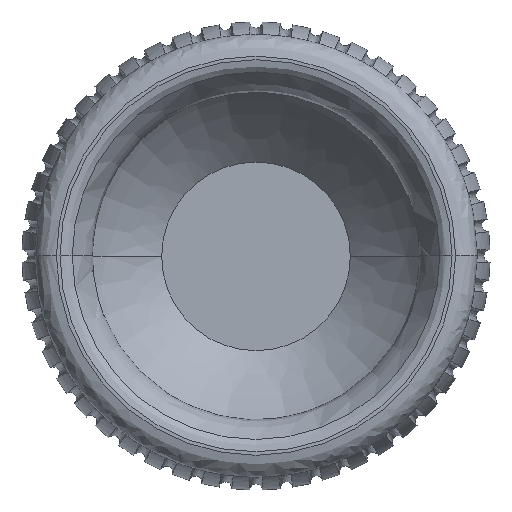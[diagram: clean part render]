
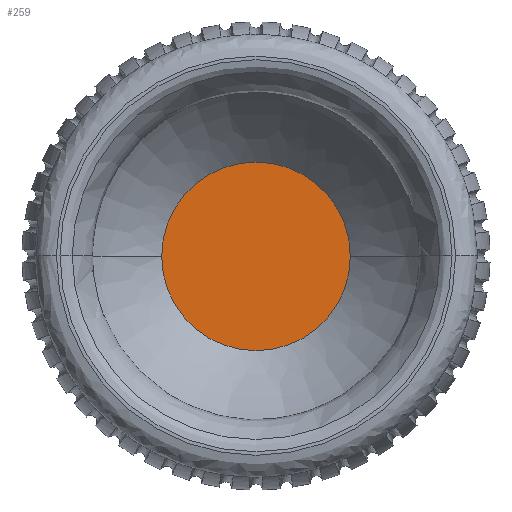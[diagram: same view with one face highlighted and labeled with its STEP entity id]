
A CAD part, top view. The second image highlights one B-rep face of the part: STEP entity #259.
In plain terms, the highlighted planar face has unit normal (0, 0, 1).
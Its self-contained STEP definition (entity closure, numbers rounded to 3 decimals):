
#259=ADVANCED_FACE('',(#464),#3077,.T.);
#464=FACE_OUTER_BOUND('',#693,.T.);
#693=EDGE_LOOP('',(#1494,#1495));
#1494=ORIENTED_EDGE('',*,*,#2082,.T.);
#1495=ORIENTED_EDGE('',*,*,#2100,.T.);
#2082=EDGE_CURVE('',#3063,#3073,#2550,.T.);
#2100=EDGE_CURVE('',#3073,#3063,#2560,.T.);
#2550=TRIMMED_CURVE($,#2758,(#30352),(#30353),.T.,.CARTESIAN.);
#2560=TRIMMED_CURVE($,#2768,(#30563),(#30564),.T.,.CARTESIAN.);
#2758=CIRCLE('',#3566,87.793);
#2768=CIRCLE('',#3576,87.793);
#3063=VERTEX_POINT('',#19475);
#3073=VERTEX_POINT('',#19485);
#3077=PLANE('',#3370);
#3370=AXIS2_PLACEMENT_3D('',#18707,#3584,$);
#3566=AXIS2_PLACEMENT_3D($,#30351,#3975,#3976);
#3576=AXIS2_PLACEMENT_3D($,#30562,#3995,#3996);
#3584=DIRECTION('',(0.,0.,1.));
#3975=DIRECTION('',(0.,0.,1.));
#3976=DIRECTION('',(-1.,0.,0.));
#3995=DIRECTION('',(0.,0.,1.));
#3996=DIRECTION('',(1.,0.,0.));
#18707=CARTESIAN_POINT('',(463.953,-89.548,31.151));
#19475=CARTESIAN_POINT('',(465.709,0.,31.151));
#19485=CARTESIAN_POINT('',(641.294,0.,31.151));
#30351=CARTESIAN_POINT('',(553.502,0.,31.151));
#30352=CARTESIAN_POINT('',(465.709,0.,31.151));
#30353=CARTESIAN_POINT('',(641.294,0.,31.151));
#30562=CARTESIAN_POINT('',(553.502,0.,31.151));
#30563=CARTESIAN_POINT('',(641.294,0.,31.151));
#30564=CARTESIAN_POINT('',(465.709,0.,31.151));
